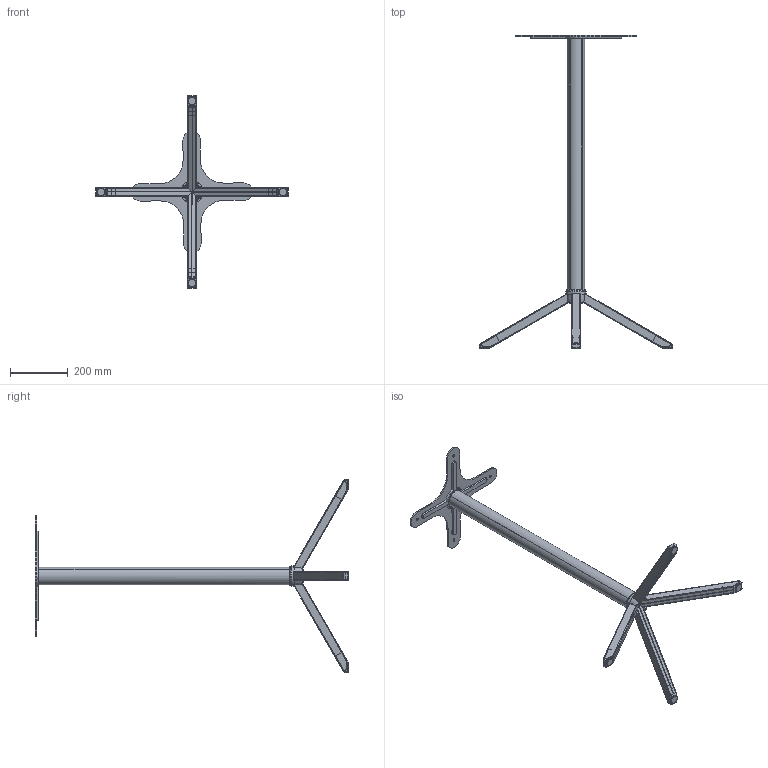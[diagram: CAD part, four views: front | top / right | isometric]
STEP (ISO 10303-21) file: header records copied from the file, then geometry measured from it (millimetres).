
FILE_DESCRIPTION (( 'STEP AP203' ), '1' );
FILE_NAME ('4 Ayak Bar.STEP', '2020-12-18T14:29:02', ( 'PC' ), ( '' ), 'SwSTEP 2.0', 'SolidWorks 2015', '' );
FILE_SCHEMA (( 'CONFIG_CONTROL_DESIGN' ));
Length unit declared in the file: millimetre
Products named in the file (7): 4 ayak Cap 60 Göbek; ayak t; 4 Ayak Bar; Kucuk Flans; Q60 Masa Borusu; reg黮at鰎; 4 AYAK
Assembly tree (15 placements, depth 2):
  4 Ayak Bar
    4 AYAK  x4
    Q60 Masa Borusu
    4 ayak Cap 60 Göbek
    Kucuk Flans
    ayak t  x4
    reg黮at鰎  x4
Bounding box: 667 x 1083.19 x 667 mm (x, y, z)
Volume: 754466 mm3; surface area: 829561.4 mm2
Topology: 15 solids, 15 shells, 1370 faces, 3455 edges, 2110 vertices
Faces by surface type: cylinder 545, plane 408, torus 198, bspline 190, cone 21, sphere 8
Entity records: 24014 total; most frequent: CARTESIAN_POINT 11011, ORIENTED_EDGE 2750, DIRECTION 2240, EDGE_CURVE 1375, VERTEX_POINT 856, AXIS2_PLACEMENT_3D 822, LINE 596, VECTOR 596
